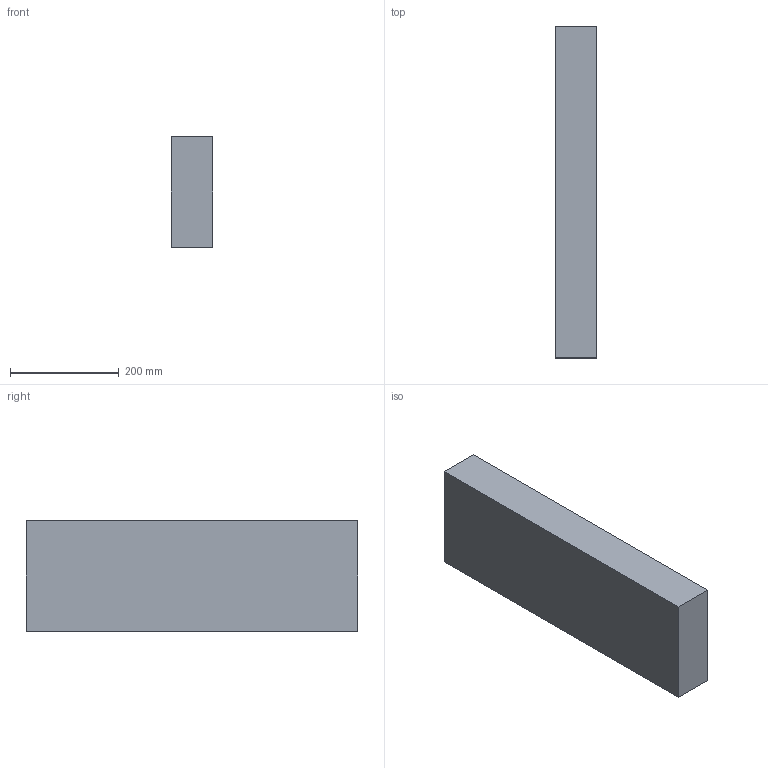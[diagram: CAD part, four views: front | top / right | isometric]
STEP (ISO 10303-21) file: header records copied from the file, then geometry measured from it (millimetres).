
FILE_DESCRIPTION(/* description */ (''),/* implementation_level */ '2;1');
FILE_NAME(/* name */ '3x8x24',/* time_stamp */ '2024-09-20T11:43:21-05:00',/* author */ (''),/* organization */ (''),/* preprocessor_version */ 'ST-DEVELOPER v19.2',/* originating_system */ 'Rhino 8.5',/* authorisation */ '');
FILE_SCHEMA (('CONFIG_CONTROL_DESIGN'));
Length unit declared in the file: inch
Products named in the file (1): Document
Bounding box: 76.2 x 609.6 x 203.2 mm (x, y, z)
Volume: 9438948.9 mm3; surface area: 371612.2 mm2
Topology: 1 solids, 1 shells, 6 faces, 12 edges, 8 vertices
Faces by surface type: plane 6
Entity records: 226 total; most frequent: CARTESIAN_POINT 40, ORIENTED_EDGE 24, EDGE_CURVE 12, B_SPLINE_CURVE_WITH_KNOTS 12, DIRECTION 10, VERTEX_POINT 8, AXIS2_PLACEMENT_3D 8, ORGANIZATION 7
